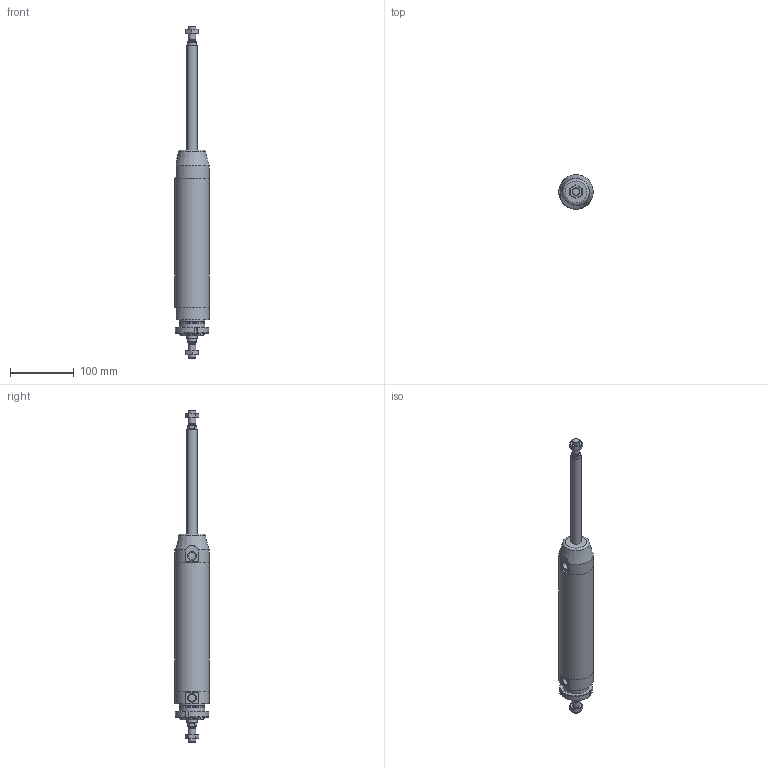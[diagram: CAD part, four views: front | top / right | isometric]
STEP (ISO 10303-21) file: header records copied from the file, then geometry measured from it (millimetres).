
FILE_DESCRIPTION(/* description */ (''),/* implementation_level */ '2;1');
FILE_NAME(/* name */ 'I:\Area Tecnica\Documenti\A-Manieri\_Inventor\12X\12X#T_###_####_#_#\12XCT_050_0160_#_#.stp',/* time_stamp */ '2015-05-13T08:46:16+02:00',/* author */ ('maniean1'),/* organization */ ('Pneumax S.p.A.'),/* preprocessor_version */ 'ST-DEVELOPER v15.2',/* originating_system */ 'Autodesk Inventor 2014',/* authorisation */ '');
FILE_SCHEMA (('AUTOMOTIVE_DESIGN { 1 0 10303 214 3 1 1 }'));
Length unit declared in the file: millimetre
Products named in the file (7): C1250_619-0160; 12X50_604; SP12X50_0160; 12X_50_11; 12X50_613; G12X_050_05; 12XCT_050_0160_#_#
Bounding box: 54 x 54 x 522 mm (x, y, z)
Volume: 400373.1 mm3; surface area: 132762.4 mm2
Topology: 7 solids, 7 shells, 107 faces, 238 edges, 152 vertices
Faces by surface type: plane 54, cylinder 26, cone 26, torus 1
Full cylindrical faces by diameter (mm): 10.2 x2, 11.4 x2, 12 x4, 14 x2, 15.6 x2, 16 x2, 38.2 x1, 40 x3, 50 x2, 54 x3
Entity records: 2546 total; most frequent: CARTESIAN_POINT 474, DIRECTION 433, ORIENTED_EDGE 338, AXIS2_PLACEMENT_3D 187, EDGE_CURVE 169, EDGE_LOOP 150, VERTEX_POINT 129, ADVANCED_FACE 96
